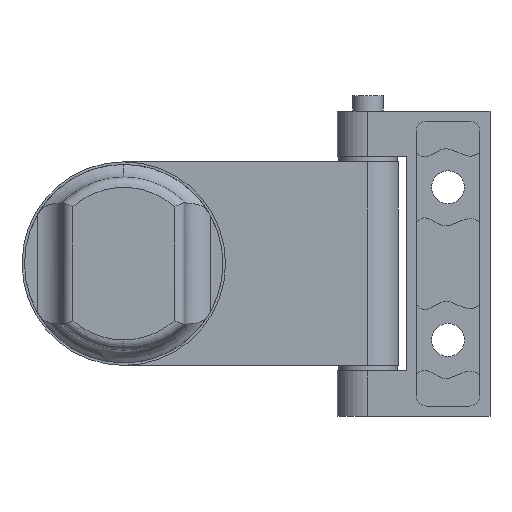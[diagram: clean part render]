
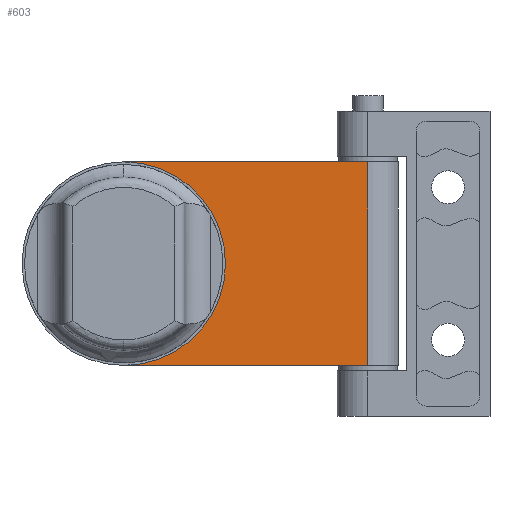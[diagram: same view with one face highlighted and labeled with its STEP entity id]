
A CAD part, front view. The second image highlights one B-rep face of the part: STEP entity #603.
In plain terms, the highlighted planar face has unit normal (0, -1, 0).
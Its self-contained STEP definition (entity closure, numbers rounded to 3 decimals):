
#21 = EDGE_CURVE ( 'NONE', #990, #2433, #2029, .T. ) ;
#188 = DIRECTION ( 'NONE',  ( -1., 0., 0. ) ) ;
#305 = AXIS2_PLACEMENT_3D ( 'NONE', #1572, #1587, #676 ) ;
#342 = CARTESIAN_POINT ( 'NONE',  ( 48., 0., 20. ) ) ;
#424 = DIRECTION ( 'NONE',  ( 0., 0., 1. ) ) ;
#597 = DIRECTION ( 'NONE',  ( 0., 1., 0. ) ) ;
#603 = ADVANCED_FACE ( 'NONE', ( #2239 ), #2053, .F. ) ;
#676 = DIRECTION ( 'NONE',  ( 0., 0., 1. ) ) ;
#681 = EDGE_LOOP ( 'NONE', ( #1237, #2392, #907, #1461 ) ) ;
#711 = CARTESIAN_POINT ( 'NONE',  ( 48., 0., -25. ) ) ;
#726 = EDGE_CURVE ( 'NONE', #2433, #1240, #2525, .T. ) ;
#751 = LINE ( 'NONE', #955, #792 ) ;
#791 = AXIS2_PLACEMENT_3D ( 'NONE', #1757, #597, #424 ) ;
#792 = VECTOR ( 'NONE', #1903, 1000. ) ;
#888 = DIRECTION ( 'NONE',  ( 0., 0., -1. ) ) ;
#907 = ORIENTED_EDGE ( 'NONE', *, *, #2416, .F. ) ;
#955 = CARTESIAN_POINT ( 'NONE',  ( 0., 0., 20. ) ) ;
#966 = VECTOR ( 'NONE', #888, 1000. ) ;
#990 = VERTEX_POINT ( 'NONE', #342 ) ;
#1109 = VECTOR ( 'NONE', #188, 1000. ) ;
#1237 = ORIENTED_EDGE ( 'NONE', *, *, #21, .F. ) ;
#1240 = VERTEX_POINT ( 'NONE', #2923 ) ;
#1399 = VERTEX_POINT ( 'NONE', #2586 ) ;
#1461 = ORIENTED_EDGE ( 'NONE', *, *, #726, .F. ) ;
#1521 = EDGE_CURVE ( 'NONE', #1399, #990, #751, .T. ) ;
#1524 = CARTESIAN_POINT ( 'NONE',  ( 48., 0., -20. ) ) ;
#1572 = CARTESIAN_POINT ( 'NONE',  ( 0., 0., 0. ) ) ;
#1587 = DIRECTION ( 'NONE',  ( 0., 1., 0. ) ) ;
#1757 = CARTESIAN_POINT ( 'NONE',  ( 0., 0., 0. ) ) ;
#1785 = CARTESIAN_POINT ( 'NONE',  ( 0., 0., -20. ) ) ;
#1903 = DIRECTION ( 'NONE',  ( 1., 0., 0. ) ) ;
#2029 = LINE ( 'NONE', #711, #966 ) ;
#2053 = PLANE ( 'NONE',  #305 ) ;
#2239 = FACE_OUTER_BOUND ( 'NONE', #681, .T. ) ;
#2392 = ORIENTED_EDGE ( 'NONE', *, *, #1521, .F. ) ;
#2416 = EDGE_CURVE ( 'NONE', #1240, #1399, #2930, .T. ) ;
#2433 = VERTEX_POINT ( 'NONE', #1524 ) ;
#2525 = LINE ( 'NONE', #1785, #1109 ) ;
#2586 = CARTESIAN_POINT ( 'NONE',  ( 0., 0., 20. ) ) ;
#2923 = CARTESIAN_POINT ( 'NONE',  ( 0., 0., -20. ) ) ;
#2930 = CIRCLE ( 'NONE', #791, 20. ) ;
